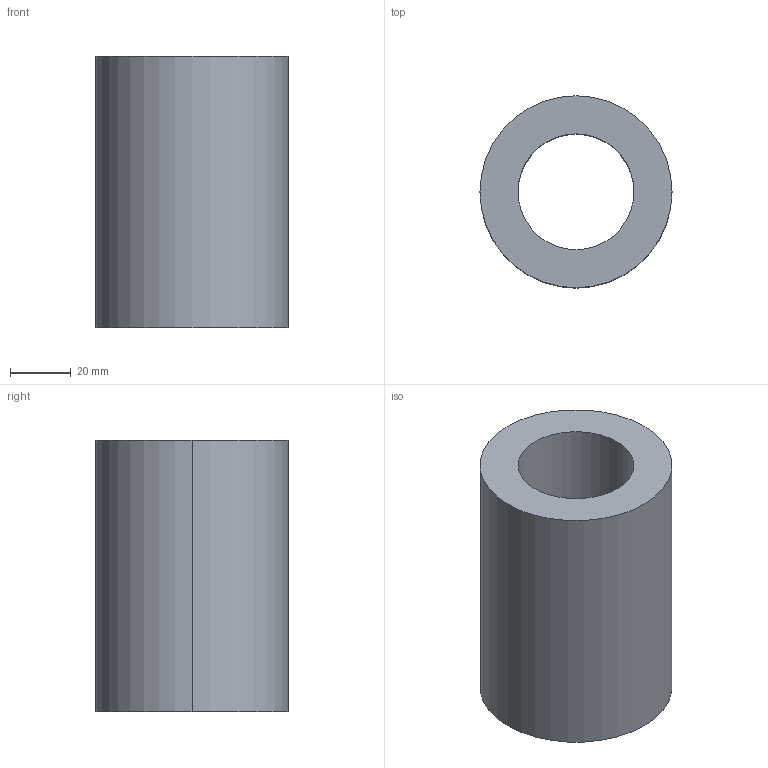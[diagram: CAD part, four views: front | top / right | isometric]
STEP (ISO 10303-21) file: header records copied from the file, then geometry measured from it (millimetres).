
FILE_DESCRIPTION (( 'STEP AP214' ), '1' );
FILE_NAME ('BRA-63X089.STEP', '2020-07-20T12:00:49', ( 'August' ), ( '' ), 'SwSTEP 2.0', 'SolidWorks 2018', '' );
FILE_SCHEMA (( 'AUTOMOTIVE_DESIGN' ));
Length unit declared in the file: millimetre
Products named in the file (1): BRA-63X089
Bounding box: 63 x 63 x 89 mm (x, y, z)
Volume: 176498.6 mm3; surface area: 32206 mm2
Topology: 1 solids, 1 shells, 6 faces, 12 edges, 8 vertices
Faces by surface type: cylinder 4, plane 2
Entity records: 202 total; most frequent: DIRECTION 34, CARTESIAN_POINT 27, ORIENTED_EDGE 24, AXIS2_PLACEMENT_3D 15, EDGE_CURVE 12, VERTEX_POINT 8, EDGE_LOOP 8, CIRCLE 8
